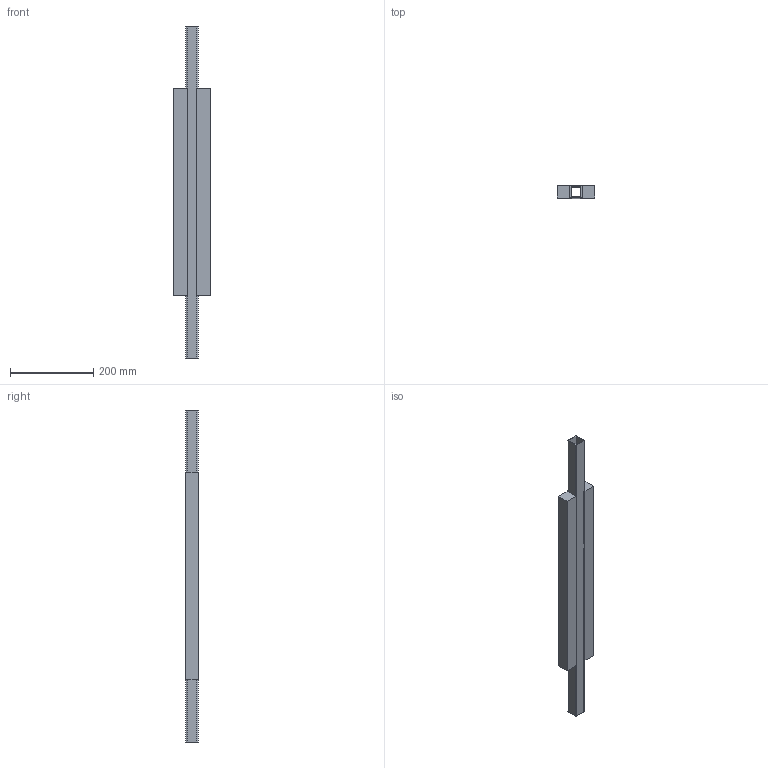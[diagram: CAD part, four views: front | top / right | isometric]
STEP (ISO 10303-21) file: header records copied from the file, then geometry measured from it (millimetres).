
FILE_DESCRIPTION (( 'STEP AP214' ), '1' );
FILE_NAME ('0003167_0_00.step', '2018-07-12T10:03:23', ( '' ), ( '' ), 'SwSTEP 2.0', 'SolidWorks 2018', '' );
FILE_SCHEMA (( 'AUTOMOTIVE_DESIGN' ));
Length unit declared in the file: millimetre
Products named in the file (3): 0003167_0_00; 0003167_0_01_2 lame L=500; 0003167_0_02_2 lame L=500
Assembly tree (2 placements, depth 2):
  0003167_0_00
    0003167_0_01_2 lame L=500
    0003167_0_02_2 lame L=500
Bounding box: 90 x 30 x 800 mm (x, y, z)
Volume: 1156882.3 mm3; surface area: 302352.4 mm2
Topology: 3 solids, 3 shells, 30 faces, 72 edges, 48 vertices
Faces by surface type: plane 22, cylinder 8
Entity records: 1149 total; most frequent: DIRECTION 158, CARTESIAN_POINT 155, ORIENTED_EDGE 144, EDGE_CURVE 72, VECTOR 56, LINE 56, AXIS2_PLACEMENT_3D 51, VERTEX_POINT 48
